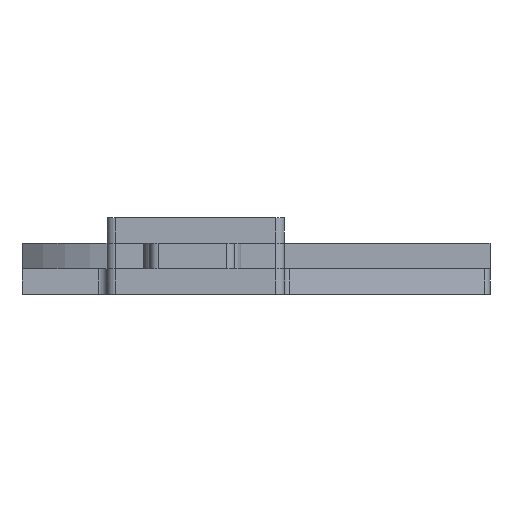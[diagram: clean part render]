
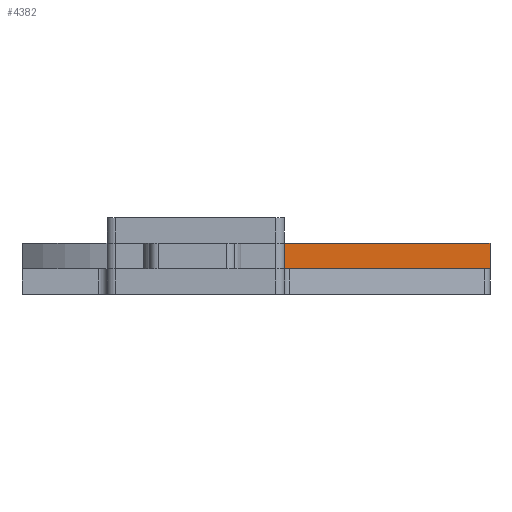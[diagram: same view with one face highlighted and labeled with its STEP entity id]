
A CAD part, front view. The second image highlights one B-rep face of the part: STEP entity #4382.
In plain terms, the highlighted planar face has unit normal (0, -1, 0).
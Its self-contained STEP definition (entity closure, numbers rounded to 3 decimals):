
#593 = EDGE_CURVE ( 'NONE', #8655, #10890, #10632, .T. ) ;
#1289 = VECTOR ( 'NONE', #6256, 1000. ) ;
#1351 = CARTESIAN_POINT ( 'NONE',  ( 40., 0., 3. ) ) ;
#1365 = CARTESIAN_POINT ( 'NONE',  ( 11., 0., 3. ) ) ;
#1378 = VECTOR ( 'NONE', #10309, 1000. ) ;
#1697 = EDGE_LOOP ( 'NONE', ( #21011, #11441, #7292, #3400 ) ) ;
#2075 = EDGE_CURVE ( 'NONE', #18574, #9156, #11562, .T. ) ;
#3400 = ORIENTED_EDGE ( 'NONE', *, *, #16268, .T. ) ;
#4382 = ADVANCED_FACE ( 'NONE', ( #17385 ), #11773, .F. ) ;
#4822 = LINE ( 'NONE', #8205, #19686 ) ;
#4864 = CARTESIAN_POINT ( 'NONE',  ( 11., 0., 0. ) ) ;
#5014 = DIRECTION ( 'NONE',  ( 0., 0., 1. ) ) ;
#5049 = CARTESIAN_POINT ( 'NONE',  ( 11., 0., 0. ) ) ;
#6256 = DIRECTION ( 'NONE',  ( 1., 0., 0. ) ) ;
#6700 = DIRECTION ( 'NONE',  ( 0., 1., 0. ) ) ;
#6850 = DIRECTION ( 'NONE',  ( 1., 0., 0. ) ) ;
#7292 = ORIENTED_EDGE ( 'NONE', *, *, #2075, .F. ) ;
#7390 = CARTESIAN_POINT ( 'NONE',  ( 40., 0., 0. ) ) ;
#8205 = CARTESIAN_POINT ( 'NONE',  ( 11., 0., 3. ) ) ;
#8501 = LINE ( 'NONE', #20469, #1378 ) ;
#8528 = VECTOR ( 'NONE', #6850, 1000. ) ;
#8655 = VERTEX_POINT ( 'NONE', #4864 ) ;
#9156 = VERTEX_POINT ( 'NONE', #1351 ) ;
#10309 = DIRECTION ( 'NONE',  ( 0., 0., -1. ) ) ;
#10632 = LINE ( 'NONE', #5049, #8528 ) ;
#10890 = VERTEX_POINT ( 'NONE', #7390 ) ;
#11441 = ORIENTED_EDGE ( 'NONE', *, *, #21871, .F. ) ;
#11562 = LINE ( 'NONE', #21712, #1289 ) ;
#11773 = PLANE ( 'NONE',  #14891 ) ;
#14891 = AXIS2_PLACEMENT_3D ( 'NONE', #18656, #6700, #5014 ) ;
#16268 = EDGE_CURVE ( 'NONE', #18574, #8655, #4822, .T. ) ;
#17385 = FACE_OUTER_BOUND ( 'NONE', #1697, .T. ) ;
#18574 = VERTEX_POINT ( 'NONE', #1365 ) ;
#18584 = DIRECTION ( 'NONE',  ( 0., 0., -1. ) ) ;
#18656 = CARTESIAN_POINT ( 'NONE',  ( 11., 0., 3. ) ) ;
#19686 = VECTOR ( 'NONE', #18584, 1000. ) ;
#20469 = CARTESIAN_POINT ( 'NONE',  ( 40., 0., 3. ) ) ;
#21011 = ORIENTED_EDGE ( 'NONE', *, *, #593, .T. ) ;
#21712 = CARTESIAN_POINT ( 'NONE',  ( 11., 0., 3. ) ) ;
#21871 = EDGE_CURVE ( 'NONE', #9156, #10890, #8501, .T. ) ;
